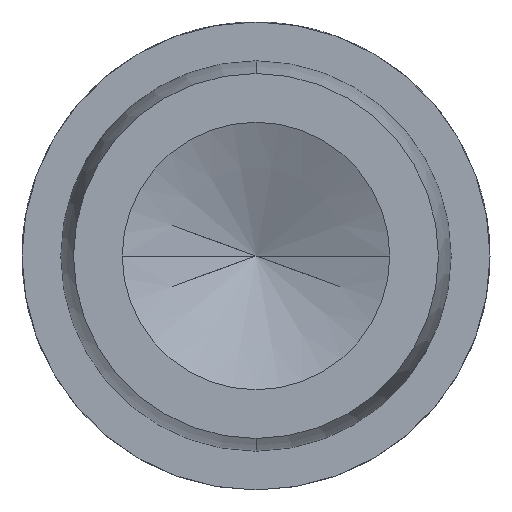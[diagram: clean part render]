
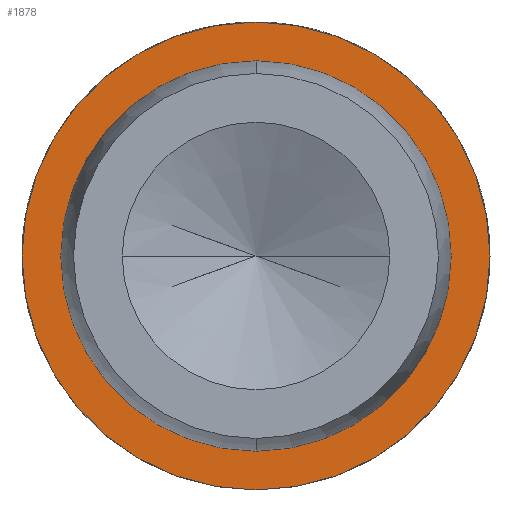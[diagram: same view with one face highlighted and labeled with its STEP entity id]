
A CAD part, left-side view. The second image highlights one B-rep face of the part: STEP entity #1878.
In plain terms, the highlighted planar face has unit normal (-1, 0, 0).
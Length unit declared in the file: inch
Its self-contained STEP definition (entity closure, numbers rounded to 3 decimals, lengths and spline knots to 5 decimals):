
#176 = AXIS2_PLACEMENT_3D ( 'NONE', #740, #727, #717 ) ;
#193 = AXIS2_PLACEMENT_3D ( 'NONE', #796, #790, #786 ) ;
#199 = AXIS2_PLACEMENT_3D ( 'NONE', #1121, #1115, #1108 ) ;
#251 = CARTESIAN_POINT ( 'NONE',  ( 1.10981, 2.16343, 2.09868 ) ) ;
#259 = AXIS2_PLACEMENT_3D ( 'NONE', #1320, #1310, #1303 ) ;
#299 = ORIENTED_EDGE ( 'NONE', *, *, #914, .F. ) ;
#703 = EDGE_CURVE ( 'NONE', #2458, #2890, #1228, .T. ) ;
#717 = DIRECTION ( 'NONE',  ( 0., 0., 1. ) ) ;
#727 = DIRECTION ( 'NONE',  ( -1., 0., 0. ) ) ;
#740 = CARTESIAN_POINT ( 'NONE',  ( 1.10981, 2.16343, 1.73368 ) ) ;
#786 = DIRECTION ( 'NONE',  ( 0., 0., 1. ) ) ;
#790 = DIRECTION ( 'NONE',  ( -1., 0., 0. ) ) ;
#796 = CARTESIAN_POINT ( 'NONE',  ( 1.10981, 2.16343, 1.73368 ) ) ;
#914 = EDGE_CURVE ( 'NONE', #1353, #2694, #1737, .T. ) ;
#933 = EDGE_CURVE ( 'NONE', #2694, #1353, #2735, .T. ) ;
#938 = EDGE_CURVE ( 'NONE', #2890, #2458, #1903, .T. ) ;
#997 = DIRECTION ( 'NONE',  ( 0., 0., 1. ) ) ;
#1007 = DIRECTION ( 'NONE',  ( -1., 0., 0. ) ) ;
#1020 = CARTESIAN_POINT ( 'NONE',  ( 1.10981, 2.16343, 1.36868 ) ) ;
#1108 = DIRECTION ( 'NONE',  ( 0., 0., 1. ) ) ;
#1115 = DIRECTION ( 'NONE',  ( -1., 0., 0. ) ) ;
#1121 = CARTESIAN_POINT ( 'NONE',  ( 1.10981, 2.16343, 1.73368 ) ) ;
#1228 = CIRCLE ( 'NONE', #259, 0.4375 ) ;
#1303 = DIRECTION ( 'NONE',  ( 0., 0., 1. ) ) ;
#1310 = DIRECTION ( 'NONE',  ( -1., 0., 0. ) ) ;
#1320 = CARTESIAN_POINT ( 'NONE',  ( 1.10981, 2.16343, 1.73368 ) ) ;
#1353 = VERTEX_POINT ( 'NONE', #251 ) ;
#1445 = ORIENTED_EDGE ( 'NONE', *, *, #933, .F. ) ;
#1624 = CARTESIAN_POINT ( 'NONE',  ( 1.10981, 2.16343, 1.29618 ) ) ;
#1690 = PLANE ( 'NONE',  #2978 ) ;
#1737 = CIRCLE ( 'NONE', #199, 0.365 ) ;
#1833 = EDGE_LOOP ( 'NONE', ( #2213, #2474 ) ) ;
#1878 = ADVANCED_FACE ( 'NONE', ( #2486, #2722 ), #1690, .T. ) ;
#1903 = CIRCLE ( 'NONE', #176, 0.4375 ) ;
#2059 = EDGE_LOOP ( 'NONE', ( #299, #1445 ) ) ;
#2213 = ORIENTED_EDGE ( 'NONE', *, *, #703, .T. ) ;
#2458 = VERTEX_POINT ( 'NONE', #2647 ) ;
#2474 = ORIENTED_EDGE ( 'NONE', *, *, #938, .T. ) ;
#2486 = FACE_BOUND ( 'NONE', #2059, .T. ) ;
#2542 = CARTESIAN_POINT ( 'NONE',  ( 1.10981, 2.16343, 1.36868 ) ) ;
#2647 = CARTESIAN_POINT ( 'NONE',  ( 1.10981, 2.16343, 2.17118 ) ) ;
#2694 = VERTEX_POINT ( 'NONE', #2542 ) ;
#2722 = FACE_OUTER_BOUND ( 'NONE', #1833, .T. ) ;
#2735 = CIRCLE ( 'NONE', #193, 0.365 ) ;
#2890 = VERTEX_POINT ( 'NONE', #1624 ) ;
#2978 = AXIS2_PLACEMENT_3D ( 'NONE', #1020, #1007, #997 ) ;
